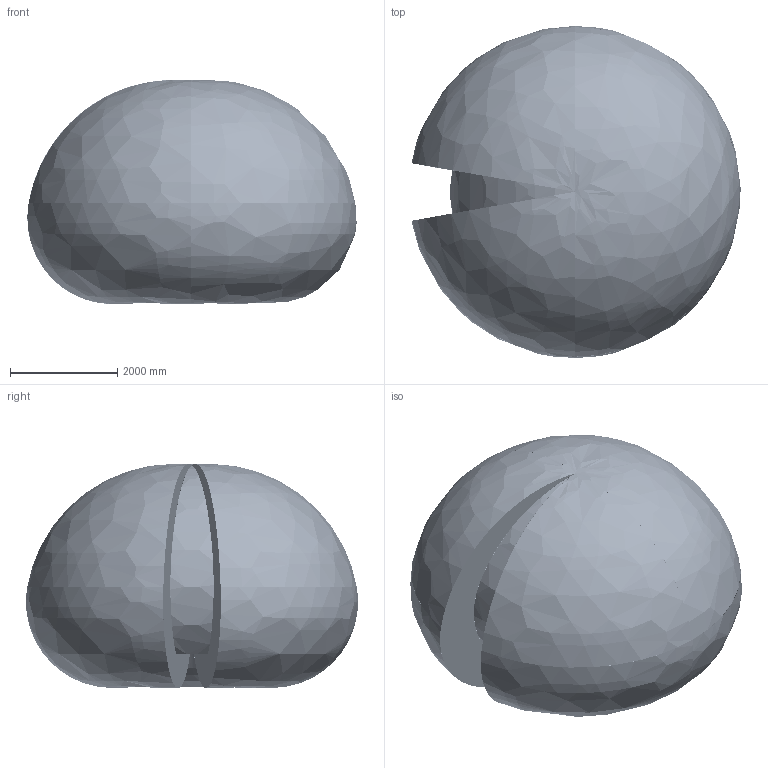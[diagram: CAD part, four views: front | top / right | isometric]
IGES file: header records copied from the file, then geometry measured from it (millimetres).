
Start section: SolidWorks IGES file using analytic representation for surfaces
Global section: file name: C:\DATA\SAP_DOC\LW\IRB 6730\IRB6730-LID-SW_190kg-310_OC_01_SW_J\Export\IRB6730-LID-SW_190kg-310_OC_01_IGES_J\IRB6730-LID-SW_190kg-310_OC_01_ASM_CAD.igs; native system: SolidWorks 2024; preprocessor: SolidWorks 2024; author: SEJOVAS3; date: 260526.111452; units: millimetre
Bounding box: 6143.29 x 6194 x 4176.8 mm (x, y, z)
Surface area: 144539041 mm2 (no closed solid volume)
Topology: 0 solids, 0 shells, 10420 faces, 160860 edges, 160708 vertices
Faces by surface type: bspline 6240, revolution 4180
